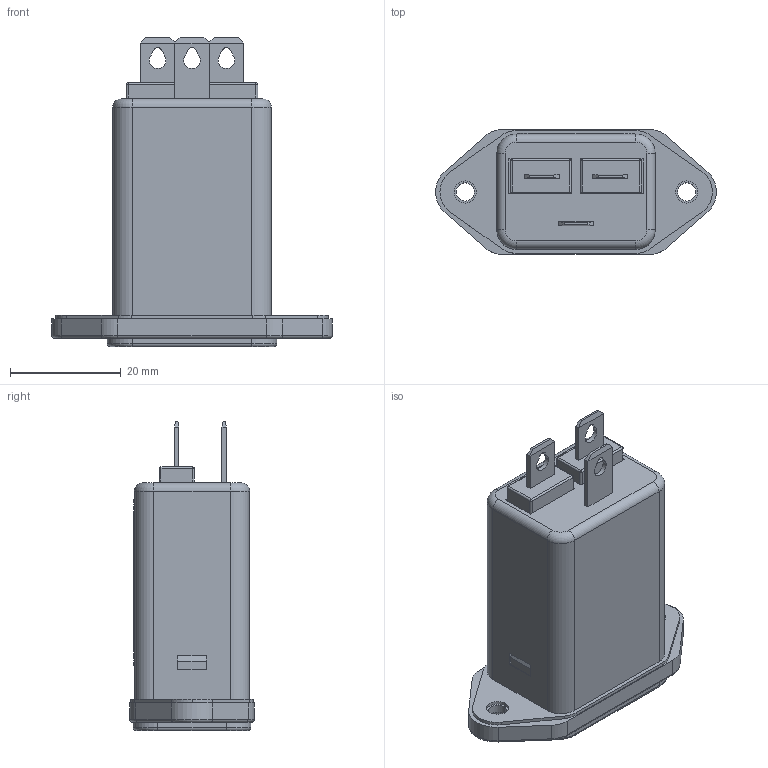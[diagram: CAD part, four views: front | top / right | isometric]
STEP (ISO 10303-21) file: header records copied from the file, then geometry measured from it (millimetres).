
FILE_DESCRIPTION (( 'STEP AP214' ), '1' );
FILE_NAME ('FASASXXSFR.STEP', '2018-12-18T04:16:42', ( 'Kenny' ), ( '' ), 'SwSTEP 2.0', 'SolidWorks 2018', '' );
FILE_SCHEMA (( 'AUTOMOTIVE_DESIGN' ));
Length unit declared in the file: millimetre
Products named in the file (1): FASASXXSFR
Bounding box: 50.7 x 22.5 x 55.8 mm (x, y, z)
Volume: 8939.8 mm3; surface area: 16689.1 mm2
Topology: 10 solids, 10 shells, 408 faces, 1020 edges, 636 vertices
Faces by surface type: plane 252, cylinder 112, torus 32, sphere 8, cone 4
Entity records: 16631 total; most frequent: DIRECTION 2090, CARTESIAN_POINT 2057, ORIENTED_EDGE 2024, EDGE_CURVE 1012, LINE 752, VECTOR 752, AXIS2_PLACEMENT_3D 669, VERTEX_POINT 636
